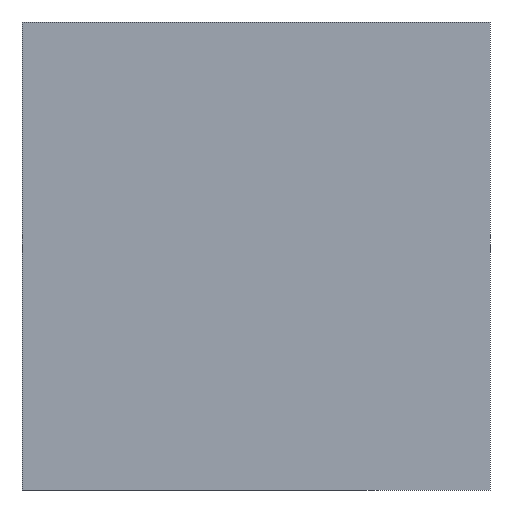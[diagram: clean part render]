
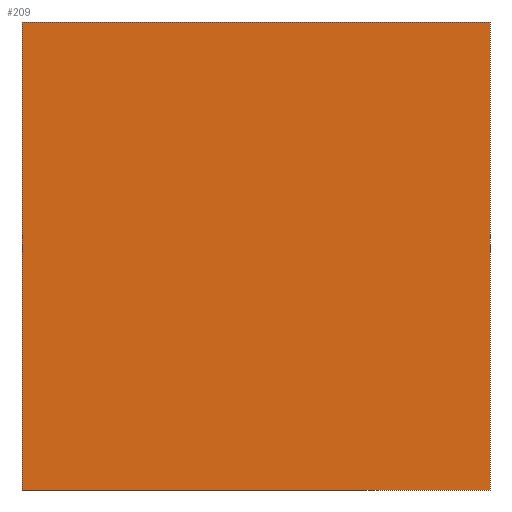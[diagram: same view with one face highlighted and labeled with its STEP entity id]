
A CAD part, left-side view. The second image highlights one B-rep face of the part: STEP entity #209.
In plain terms, the highlighted planar face has unit normal (-1, 0, 0).
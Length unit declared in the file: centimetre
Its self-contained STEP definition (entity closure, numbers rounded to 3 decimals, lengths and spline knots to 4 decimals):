
#45 = ORIENTED_EDGE ( 'NONE', *, *, #155, .T. ) ;
#57 = PLANE ( 'NONE',  #508 ) ;
#65 = VERTEX_POINT ( 'NONE', #254 ) ;
#71 = ORIENTED_EDGE ( 'NONE', *, *, #205, .F. ) ;
#78 = VERTEX_POINT ( 'NONE', #262 ) ;
#84 = EDGE_CURVE ( 'NONE', #78, #65, #420, .T. ) ;
#97 = DIRECTION ( 'NONE',  ( 0., 0., -1. ) ) ;
#107 = DIRECTION ( 'NONE',  ( 0., -1., 0. ) ) ;
#132 = LINE ( 'NONE', #513, #394 ) ;
#146 = CARTESIAN_POINT ( 'NONE',  ( 0., 1000., 1000. ) ) ;
#155 = EDGE_CURVE ( 'NONE', #528, #78, #132, .T. ) ;
#184 = LINE ( 'NONE', #470, #329 ) ;
#186 = CARTESIAN_POINT ( 'NONE',  ( 0., 1000., 1000. ) ) ;
#193 = EDGE_LOOP ( 'NONE', ( #368, #71, #533, #45 ) ) ;
#205 = EDGE_CURVE ( 'NONE', #304, #65, #184, .T. ) ;
#209 = ADVANCED_FACE ( 'NONE', ( #418 ), #57, .F. ) ;
#220 = DIRECTION ( 'NONE',  ( 0., 0., -1. ) ) ;
#254 = CARTESIAN_POINT ( 'NONE',  ( 0., 0., 0. ) ) ;
#262 = CARTESIAN_POINT ( 'NONE',  ( 0., 1000., 0. ) ) ;
#304 = VERTEX_POINT ( 'NONE', #521 ) ;
#329 = VECTOR ( 'NONE', #97, 100. ) ;
#346 = DIRECTION ( 'NONE',  ( 0., 0., -1. ) ) ;
#365 = VECTOR ( 'NONE', #107, 100. ) ;
#368 = ORIENTED_EDGE ( 'NONE', *, *, #84, .T. ) ;
#379 = DIRECTION ( 'NONE',  ( 1., 0., 0. ) ) ;
#383 = LINE ( 'NONE', #472, #365 ) ;
#394 = VECTOR ( 'NONE', #346, 100. ) ;
#416 = CARTESIAN_POINT ( 'NONE',  ( 0., 1000., 0. ) ) ;
#418 = FACE_OUTER_BOUND ( 'NONE', #193, .T. ) ;
#420 = LINE ( 'NONE', #416, #510 ) ;
#427 = DIRECTION ( 'NONE',  ( 0., -1., 0. ) ) ;
#470 = CARTESIAN_POINT ( 'NONE',  ( 0., 0., 1000. ) ) ;
#472 = CARTESIAN_POINT ( 'NONE',  ( 0., 1000., 1000. ) ) ;
#508 = AXIS2_PLACEMENT_3D ( 'NONE', #146, #379, #220 ) ;
#510 = VECTOR ( 'NONE', #427, 100. ) ;
#513 = CARTESIAN_POINT ( 'NONE',  ( 0., 1000., 1000. ) ) ;
#521 = CARTESIAN_POINT ( 'NONE',  ( 0., 0., 1000. ) ) ;
#528 = VERTEX_POINT ( 'NONE', #186 ) ;
#533 = ORIENTED_EDGE ( 'NONE', *, *, #534, .F. ) ;
#534 = EDGE_CURVE ( 'NONE', #528, #304, #383, .T. ) ;
